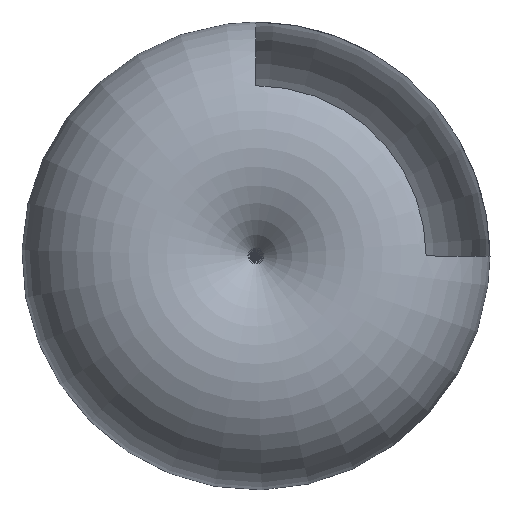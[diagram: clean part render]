
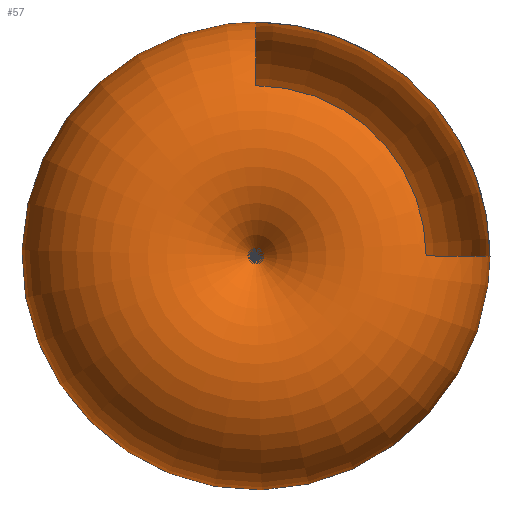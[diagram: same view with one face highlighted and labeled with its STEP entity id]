
A CAD part, top view. The second image highlights one B-rep face of the part: STEP entity #57.
In plain terms, the highlighted toroidal (fillet/blend) face has major radius 10 mm and minor radius 12 mm.
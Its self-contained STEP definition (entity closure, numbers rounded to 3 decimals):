
#1=CARTESIAN_POINT('',(0.,0.,0.));
#2=CARTESIAN_POINT('',(22.,0.,0.));
#3=CARTESIAN_POINT('',(0.,22.,0.));
#4=CARTESIAN_POINT('',(0.,16.,10.392));
#5=CARTESIAN_POINT('',(16.,0.,10.392));
#6=CARTESIAN_POINT('',(0.,10.,0.));
#7=CARTESIAN_POINT('',(10.,0.,0.));
#8=CARTESIAN_POINT('',(0.,0.,10.392));
#10=VERTEX_POINT('',#2);
#11=VERTEX_POINT('',#3);
#12=VERTEX_POINT('',#4);
#13=VERTEX_POINT('',#5);
#20=DIRECTION('',(0.,0.,1.));
#21=DIRECTION('',(1.,0.,0.));
#22=DIRECTION('',(0.,1.,0.));
#23=DIRECTION('',(0.,-1.,0.));
#24=AXIS2_PLACEMENT_3D('',#1,#20,#21);
#25=AXIS2_PLACEMENT_3D('',#6,#21,#22);
#26=AXIS2_PLACEMENT_3D('',#7,#23,#21);
#27=AXIS2_PLACEMENT_3D('',#8,#20,#21);
#30=CIRCLE('',#24,22.);
#31=CIRCLE('',#25,12.);
#32=CIRCLE('',#27,16.);
#33=CIRCLE('',#26,12.);
#40=EDGE_CURVE('',#10,#11,#30,.T.);
#41=EDGE_CURVE('',#11,#12,#31,.T.);
#42=EDGE_CURVE('',#12,#13,#32,.F.);
#43=EDGE_CURVE('',#10,#13,#33,.T.);
#50=ORIENTED_EDGE('',*,*,#40,.T.);
#51=ORIENTED_EDGE('',*,*,#41,.T.);
#52=ORIENTED_EDGE('',*,*,#42,.T.);
#53=ORIENTED_EDGE('',*,*,#43,.F.);
#54=EDGE_LOOP('',(#50,#51,#52,#53));
#55=FACE_OUTER_BOUND('',#54,.T.);
#56=TOROIDAL_SURFACE('',#24,-10.,12.);
#57=ADVANCED_FACE('',(#55),#56,.T.);
